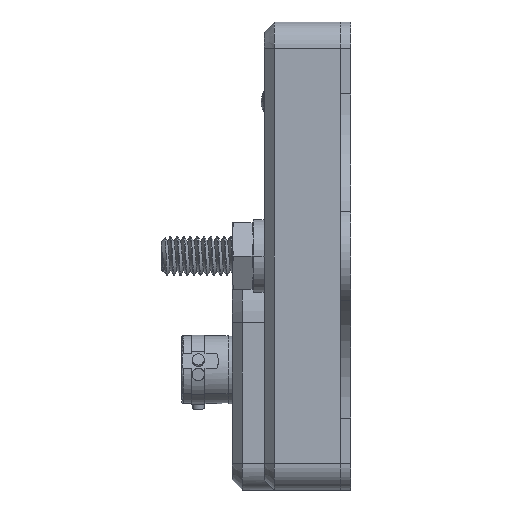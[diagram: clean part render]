
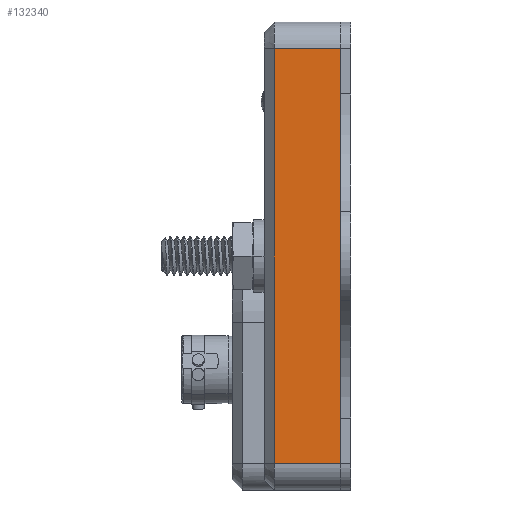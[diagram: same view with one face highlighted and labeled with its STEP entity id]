
A CAD part, left-side view. The second image highlights one B-rep face of the part: STEP entity #132340.
In plain terms, the highlighted planar face has unit normal (-1, 0, 0).
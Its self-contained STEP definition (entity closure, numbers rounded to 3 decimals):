
#127672=DIRECTION('',(0.,0.,1.));
#127673=VECTOR('',#127672,62.);
#127674=CARTESIAN_POINT('',(-35.,-1.2,-31.));
#127675=LINE('',#127674,#127673);
#129380=DIRECTION('',(0.,1.,0.));
#129381=VECTOR('',#129380,9.937);
#129382=CARTESIAN_POINT('',(-35.,-1.2,31.));
#129383=LINE('',#129382,#129381);
#129392=DIRECTION('',(0.,0.,1.));
#129393=VECTOR('',#129392,62.);
#129394=CARTESIAN_POINT('',(-35.,8.737,
-31.));
#129395=LINE('',#129394,#129393);
#129396=DIRECTION('',(0.,1.,0.));
#129397=VECTOR('',#129396,9.937);
#129398=CARTESIAN_POINT('',(-35.,-1.2,-31.));
#129399=LINE('',#129398,#129397);
#129417=CARTESIAN_POINT('',(-35.,-1.2,-31.));
#129419=VERTEX_POINT('',#129417);
#129420=CARTESIAN_POINT('',(-35.,-1.2,31.));
#129421=VERTEX_POINT('',#129420);
#129466=CARTESIAN_POINT('',(-35.,8.737,31.));
#129467=VERTEX_POINT('',#129466);
#129470=CARTESIAN_POINT('',(-35.,8.737,
-31.));
#129471=VERTEX_POINT('',#129470);
#132329=CARTESIAN_POINT('',(-35.,-1.2,-31.));
#132330=DIRECTION('',(-1.,0.,0.));
#132331=DIRECTION('',(0.,0.,1.));
#132332=AXIS2_PLACEMENT_3D('',#132329,#132330,#132331);
#132333=PLANE('',#132332);
#132334=ORIENTED_EDGE('',*,*,#132323,.T.);
#132335=ORIENTED_EDGE('',*,*,#132298,.F.);
#132336=ORIENTED_EDGE('',*,*,#129891,.F.);
#132337=ORIENTED_EDGE('',*,*,#129933,.T.);
#132338=EDGE_LOOP('',(#132334,#132335,#132336,#132337));
#132339=FACE_OUTER_BOUND('',#132338,.F.);
#132340=ADVANCED_FACE('',(#132339),#132333,.T.);
#129891=EDGE_CURVE('',#129419,#129421,#127675,.T.);
#129933=EDGE_CURVE('',#129419,#129471,#129399,.T.);
#132298=EDGE_CURVE('',#129421,#129467,#129383,.T.);
#132323=EDGE_CURVE('',#129471,#129467,#129395,.T.);
